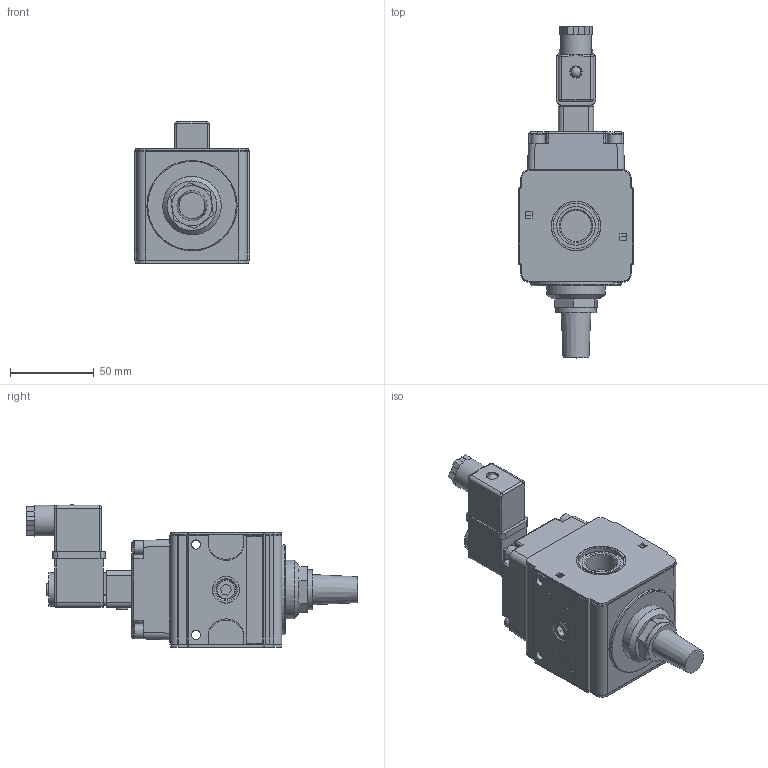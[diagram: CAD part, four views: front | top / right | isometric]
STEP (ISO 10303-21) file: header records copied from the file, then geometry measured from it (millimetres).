
FILE_DESCRIPTION((''),'2;1');
FILE_NAME('K:\ZEICHNG\Kunden Modelle\Multifix Steps\NL.4\S.33.stp','2011-02-02T11:41:38',('DDruske'),(''),'Autodesk Inventor 2009','Autodesk Inventor 2009','');
FILE_SCHEMA(('AUTOMOTIVE_DESIGN { 1 0 10303 214 1 1 1 1 }'));
Length unit declared in the file: millimetre
Products named in the file (1): Bauteil1
Bounding box: 69.2 x 198.4 x 85.15 mm (x, y, z)
Volume: 395774.1 mm3; surface area: 79664.3 mm2
Topology: 1 solids, 10 shells, 620 faces, 1511 edges, 940 vertices
Faces by surface type: plane 348, cylinder 135, bspline 107, torus 14, sphere 8, cone 8
Full cylindrical faces by diameter (mm): 3.2 x2, 3.5 x2, 5.5 x3, 6 x1, 7 x1, 7.128 x1, 7.2 x1, 8.5 x4, 9.7 x1, 11.8 x1, 15.5 x1, 16 x1, 16.1 x2, 18.5 x1, 20 x1, 23 x1, 24 x1, 27.2 x2, 29.4 x1, 29.6 x2, 35 x1, 54 x1
Entity records: 18700 total; most frequent: CARTESIAN_POINT 3882, ORIENTED_EDGE 2882, DIRECTION 2822, EDGE_CURVE 1441, VECTOR 1076, LINE 1076, VERTEX_POINT 929, AXIS2_PLACEMENT_3D 873
